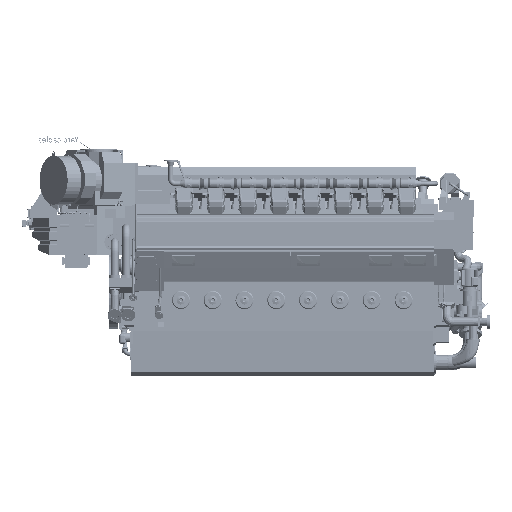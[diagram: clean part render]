
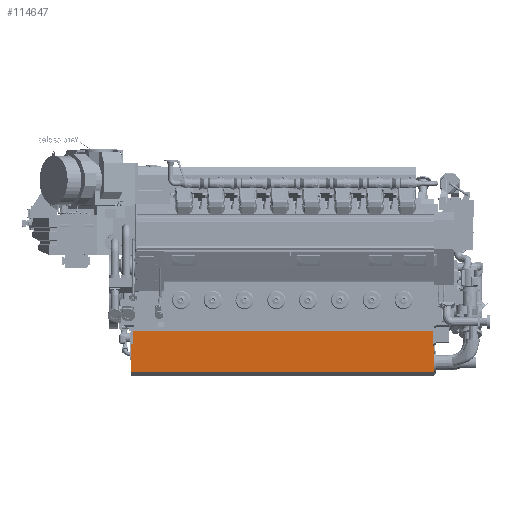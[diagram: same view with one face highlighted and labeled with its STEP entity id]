
A CAD part, front view. The second image highlights one B-rep face of the part: STEP entity #114647.
In plain terms, the highlighted planar face has unit normal (0, -0.999, -0.052).
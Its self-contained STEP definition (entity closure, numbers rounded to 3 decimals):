
#36938=LINE('',#656147,#62669);
#36969=LINE('',#656229,#62700);
#36970=LINE('',#656233,#62701);
#36974=LINE('',#656245,#62705);
#36975=LINE('',#656248,#62706);
#36976=LINE('',#656249,#62707);
#36977=LINE('',#656250,#62708);
#36978=LINE('',#656251,#62709);
#36979=LINE('',#656253,#62710);
#36980=LINE('',#656255,#62711);
#36981=LINE('',#656257,#62712);
#36982=LINE('',#656259,#62713);
#62669=VECTOR('',#423562,1.);
#62700=VECTOR('',#423621,1.);
#62701=VECTOR('',#423624,1.);
#62705=VECTOR('',#423634,1.);
#62706=VECTOR('',#423635,1.);
#62707=VECTOR('',#423636,1.);
#62708=VECTOR('',#423637,1.);
#62709=VECTOR('',#423638,1.);
#62710=VECTOR('',#423639,1.);
#62711=VECTOR('',#423640,1.);
#62712=VECTOR('',#423641,1.);
#62713=VECTOR('',#423642,1.);
#80749=PLANE('',#346138);
#96630=FACE_OUTER_BOUND('',#146132,.T.);
#114647=ADVANCED_FACE('',(#96630),#80749,.F.);
#146132=EDGE_LOOP('',(#227729,#227730,#227731,#227732,#227733,#227734,#227735,
#227736,#227737,#227738,#227739,#227740));
#227729=ORIENTED_EDGE('',*,*,#305448,.F.);
#227730=ORIENTED_EDGE('',*,*,#305449,.T.);
#227731=ORIENTED_EDGE('',*,*,#305398,.F.);
#227732=ORIENTED_EDGE('',*,*,#305450,.T.);
#227733=ORIENTED_EDGE('',*,*,#305442,.T.);
#227734=ORIENTED_EDGE('',*,*,#305451,.T.);
#227735=ORIENTED_EDGE('',*,*,#305440,.T.);
#227736=ORIENTED_EDGE('',*,*,#305452,.F.);
#227737=ORIENTED_EDGE('',*,*,#305453,.F.);
#227738=ORIENTED_EDGE('',*,*,#305454,.F.);
#227739=ORIENTED_EDGE('',*,*,#305455,.T.);
#227740=ORIENTED_EDGE('',*,*,#305456,.F.);
#262708=VERTEX_POINT('',#656146);
#262709=VERTEX_POINT('',#656148);
#262745=VERTEX_POINT('',#656228);
#262746=VERTEX_POINT('',#656230);
#262747=VERTEX_POINT('',#656232);
#262748=VERTEX_POINT('',#656234);
#262753=VERTEX_POINT('',#656246);
#262754=VERTEX_POINT('',#656247);
#262755=VERTEX_POINT('',#656252);
#262756=VERTEX_POINT('',#656254);
#262757=VERTEX_POINT('',#656256);
#262758=VERTEX_POINT('',#656258);
#305398=EDGE_CURVE('',#262708,#262709,#36938,.T.);
#305440=EDGE_CURVE('',#262746,#262745,#36969,.T.);
#305442=EDGE_CURVE('',#262748,#262747,#36970,.T.);
#305448=EDGE_CURVE('',#262753,#262754,#36974,.T.);
#305449=EDGE_CURVE('',#262753,#262709,#36975,.T.);
#305450=EDGE_CURVE('',#262708,#262748,#36976,.T.);
#305451=EDGE_CURVE('',#262747,#262746,#36977,.T.);
#305452=EDGE_CURVE('',#262755,#262745,#36978,.T.);
#305453=EDGE_CURVE('',#262756,#262755,#36979,.T.);
#305454=EDGE_CURVE('',#262757,#262756,#36980,.T.);
#305455=EDGE_CURVE('',#262757,#262758,#36981,.T.);
#305456=EDGE_CURVE('',#262754,#262758,#36982,.T.);
#346138=AXIS2_PLACEMENT_3D('',#656260,#423643,#423644);
#423562=DIRECTION('',(0.,-0.052,0.999));
#423621=DIRECTION('',(0.,-0.052,0.999));
#423624=DIRECTION('',(0.,-0.052,0.999));
#423634=DIRECTION('',(0.,-0.052,0.999));
#423635=DIRECTION('',(-1.,0.,0.));
#423636=DIRECTION('',(1.,0.,0.));
#423637=DIRECTION('',(0.,-0.052,0.999));
#423638=DIRECTION('',(1.,0.,0.));
#423639=DIRECTION('',(0.,0.052,-0.999));
#423640=DIRECTION('',(1.,0.,0.));
#423641=DIRECTION('',(0.,0.052,-0.999));
#423642=DIRECTION('',(1.,0.,0.));
#423643=DIRECTION('',(0.,0.999,0.052));
#423644=DIRECTION('',(0.,-0.052,0.999));
#656146=CARTESIAN_POINT('',(-5335.,-519.799,-1402.936));
#656147=CARTESIAN_POINT('',(-5335.,-519.799,-1402.936));
#656148=CARTESIAN_POINT('',(-5335.,-545.423,-914.));
#656228=CARTESIAN_POINT('',(0.,-543.66,-947.642));
#656229=CARTESIAN_POINT('',(0.,-519.799,-1402.936));
#656230=CARTESIAN_POINT('',(0.,-542.122,-976.978));
#656232=CARTESIAN_POINT('',(0.,-537.389,-1067.285));
#656233=CARTESIAN_POINT('',(0.,-519.799,-1402.936));
#656234=CARTESIAN_POINT('',(0.,-519.799,-1402.936));
#656245=CARTESIAN_POINT('',(-5330.,-519.799,-1402.936));
#656246=CARTESIAN_POINT('',(-5330.,-545.423,-914.));
#656247=CARTESIAN_POINT('',(-5330.,-545.632,-910.));
#656248=CARTESIAN_POINT('',(-5335.,-545.423,-914.));
#656249=CARTESIAN_POINT('',(-5335.,-519.799,-1402.936));
#656250=CARTESIAN_POINT('',(0.,-519.799,-1402.936));
#656251=CARTESIAN_POINT('',(-30.,-543.66,-947.642));
#656252=CARTESIAN_POINT('',(-30.,-543.66,-947.642));
#656253=CARTESIAN_POINT('',(-30.,-556.9,-695.));
#656254=CARTESIAN_POINT('',(-30.,-556.9,-695.));
#656255=CARTESIAN_POINT('',(-5335.,-556.9,-695.));
#656256=CARTESIAN_POINT('',(-5300.,-556.9,-695.));
#656257=CARTESIAN_POINT('',(-5300.,-519.799,-1402.936));
#656258=CARTESIAN_POINT('',(-5300.,-545.632,-910.));
#656259=CARTESIAN_POINT('',(-5335.,-545.632,-910.));
#656260=CARTESIAN_POINT('',(-5335.,-519.799,-1402.936));
